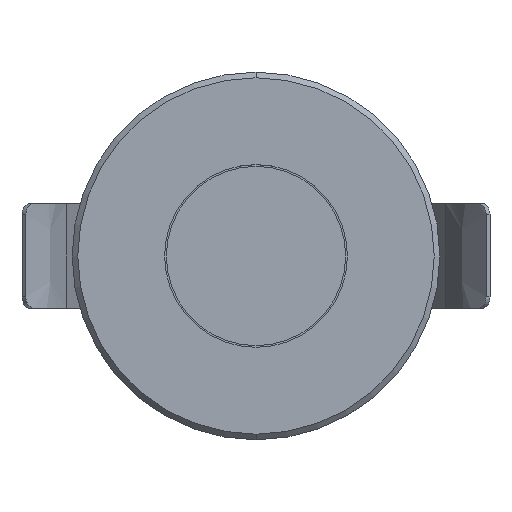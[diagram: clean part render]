
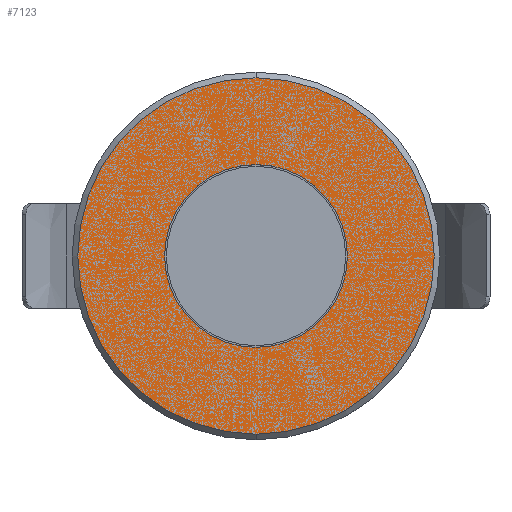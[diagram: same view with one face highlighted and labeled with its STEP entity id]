
A CAD part, top view. The second image highlights one B-rep face of the part: STEP entity #7123.
In plain terms, the highlighted planar face has unit normal (0, 0, 1) as drawn and (0, 0, -1) by its records, which use the part's own axes.
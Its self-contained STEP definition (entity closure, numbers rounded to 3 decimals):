
#6940=CARTESIAN_POINT('',(0.,0.,0.));
#6941=DIRECTION('',(0.,0.,-1.));
#6942=DIRECTION('',(-1.,0.,0.));
#6943=AXIS2_PLACEMENT_3D('',#6940,#6941,#6942);
#6945=CARTESIAN_POINT('',(0.,0.,0.));
#6946=DIRECTION('',(0.,0.,-1.));
#6947=DIRECTION('',(1.,0.,0.));
#6948=AXIS2_PLACEMENT_3D('',#6945,#6946,#6947);
#6950=CARTESIAN_POINT('',(0.,0.,0.));
#6951=DIRECTION('',(0.,0.,-1.));
#6952=DIRECTION('',(1.,0.,0.));
#6953=AXIS2_PLACEMENT_3D('',#6950,#6951,#6952);
#6955=CARTESIAN_POINT('',(0.,0.,0.));
#6956=DIRECTION('',(0.,0.,-1.));
#6957=DIRECTION('',(-1.,0.,0.));
#6958=AXIS2_PLACEMENT_3D('',#6955,#6956,#6957);
#7070=CARTESIAN_POINT('',(-16.15,0.,0.));
#7071=CARTESIAN_POINT('',(16.15,0.,0.));
#7072=VERTEX_POINT('',#7070);
#7073=VERTEX_POINT('',#7071);
#7098=CARTESIAN_POINT('',(31.5,0.,0.));
#7099=CARTESIAN_POINT('',(-31.5,0.,0.));
#7100=VERTEX_POINT('',#7098);
#7101=VERTEX_POINT('',#7099);
#7106=CARTESIAN_POINT('',(0.,0.,0.));
#7107=DIRECTION('',(0.,0.,1.));
#7108=DIRECTION('',(1.,0.,0.));
#7109=AXIS2_PLACEMENT_3D('',#7106,#7107,#7108);
#7110=PLANE('',#7109);
#7112=ORIENTED_EDGE('',*,*,#7111,.F.);
#7114=ORIENTED_EDGE('',*,*,#7113,.F.);
#7115=EDGE_LOOP('',(#7112,#7114));
#7116=FACE_OUTER_BOUND('',#7115,.F.);
#7118=ORIENTED_EDGE('',*,*,#7117,.T.);
#7120=ORIENTED_EDGE('',*,*,#7119,.T.);
#7121=EDGE_LOOP('',(#7118,#7120));
#7122=FACE_BOUND('',#7121,.F.);
#7123=ADVANCED_FACE('',(#7116,#7122),#7110,.F.);
#6944=CIRCLE('',#6943,16.15);
#6949=CIRCLE('',#6948,16.15);
#6954=CIRCLE('',#6953,31.5);
#6959=CIRCLE('',#6958,31.5);
#7111=EDGE_CURVE('',#7100,#7101,#6954,.T.);
#7113=EDGE_CURVE('',#7101,#7100,#6959,.T.);
#7117=EDGE_CURVE('',#7072,#7073,#6944,.T.);
#7119=EDGE_CURVE('',#7073,#7072,#6949,.T.);
